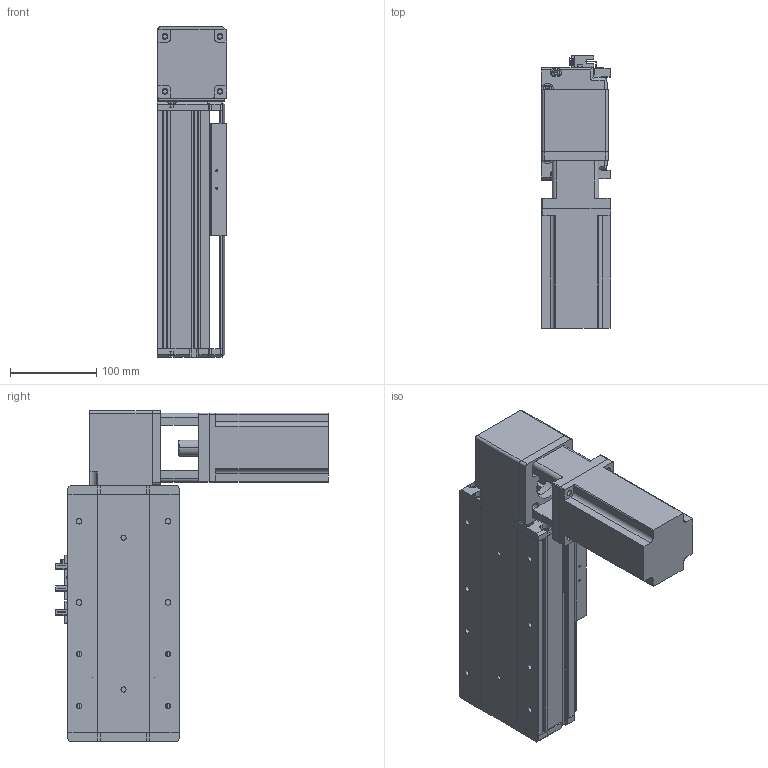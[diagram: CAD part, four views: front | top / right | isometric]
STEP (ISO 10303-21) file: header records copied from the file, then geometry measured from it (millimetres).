
FILE_DESCRIPTION (( 'STEP AP214' ), '1' );
FILE_NAME ('KSD130B-S50-MLT-CM.STEP', '2019-09-23T02:07:47', ( '微软用户' ), ( '微软中国' ), 'SwSTEP 2.0', 'SolidWorks 2014', '' );
FILE_SCHEMA (( 'AUTOMOTIVE_DESIGN' ));
Length unit declared in the file: millimetre
Products named in the file (12): 130宽马达安装板同步带左-改; 130宽马达安装板同步带半封闭; 130宽同步带安装座半封闭; 130宽端盖同步带半封闭; 130宽底板半封闭同步带-50行程; KSD130B-S50-MLT-CM; 台达ECMA－C20807AS伺服电机; 130宽马达安装板1-带电机座750W（1）; 覜茼え100遵圉猾敕; U倰嫖萇EEㄜSX672; 130宽安装板同步带带电机座750W; 130宽盖板半封闭同步带-50行程
Assembly tree (13 placements, depth 2):
  KSD130B-S50-MLT-CM
    130宽底板半封闭同步带-50行程
    130宽端盖同步带半封闭
    130宽同步带安装座半封闭
    130宽马达安装板同步带半封闭
    130宽马达安装板同步带左-改
    130宽盖板半封闭同步带-50行程
    130宽安装板同步带带电机座750W
    U倰嫖萇EEㄜSX672  x3
    覜茼え100遵圉猾敕
    130宽马达安装板1-带电机座750W（1）
    台达ECMA－C20807AS伺服电机
Bounding box: 81 x 316 x 383 mm (x, y, z)
Volume: 2398844.9 mm3; surface area: 526616.7 mm2
Topology: 14 solids, 14 shells, 1303 faces, 3632 edges, 2351 vertices
Faces by surface type: cylinder 605, plane 581, cone 117
Entity records: 40851 total; most frequent: CARTESIAN_POINT 7165, DIRECTION 6302, ORIENTED_EDGE 6028, EDGE_CURVE 3014, AXIS2_PLACEMENT_3D 2280, VERTEX_POINT 1975, VECTOR 1742, LINE 1742
